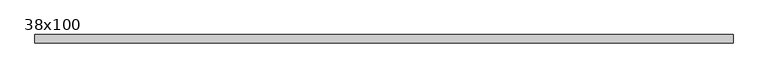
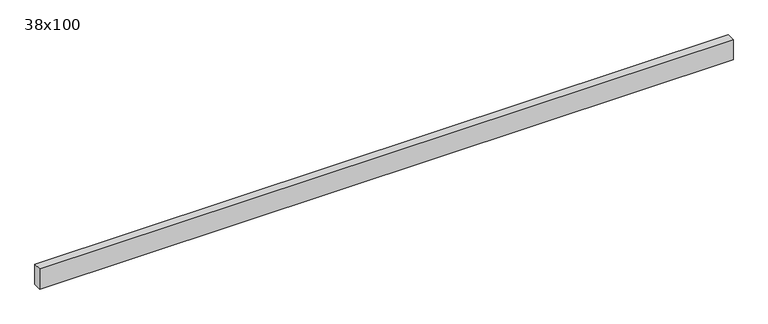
"""IFC4 building model written with IfcOpenShell, lengths in millimetres: beam geometry, Poutre - Bois de construction de dimensions courantes : 38x100."""

from ifc_helpers import new_model, si_unit, frame, origin, place, context, project, spatial, polyline, outline, extrude, source, transform, mapped, element, save


def beam_38x100_a05c0d06(model_context):
    return source(origin(), model_context, "Body", "SweptSolid", [
        extrude(outline(polyline([(1533.0, 19.05), (1533.0, -19.05), (-1693.0, -19.05), (-1693.0, 19.05), (1533.0, 19.05)])), frame((0.0, 0.0, -50.0), z_axis=(0.0, 0.0, 1.0), x_axis=(1.0, 0.0, 0.0)), (0.0, 0.0, 1.0), 100.0),
    ])


if __name__ == "__main__":
    model = new_model("IFC4")
    model_context = context("Model", 3, world=origin())
    ifc_project = project(units=[si_unit("LENGTHUNIT", "METRE", prefix="MILLI")], contexts=[model_context])
    site = spatial("IfcSite", under=ifc_project)
    building = spatial("IfcBuilding", under=site)
    placement = place(None, origin())
    beam_38x100_shape = beam_38x100_a05c0d06(model_context)
    element("IfcBeam", 1, ObjectType="Poutre - Bois de construction de dimensions courantes : 38x100", at=placement, inside=building, context=model_context, shape_type="MappedRepresentation", body=[
        mapped(beam_38x100_shape, transform((0.0, 0.0, 0.0), x_axis=(1.0, 0.0, 0.0), y_axis=(0.0, 1.0, 0.0), z_axis=(0.0, 0.0, 1.0))),
    ])
    save(model, "model.ifc")
